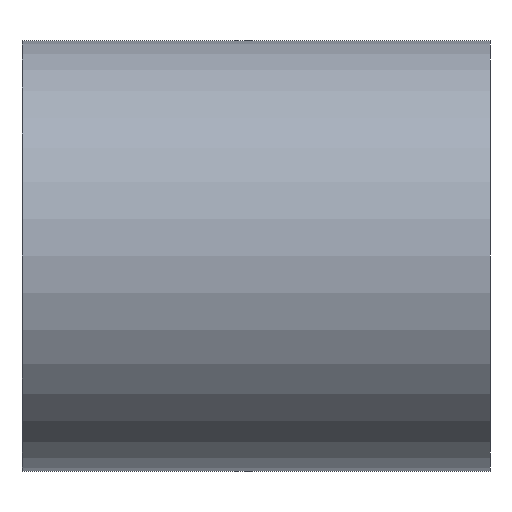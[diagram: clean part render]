
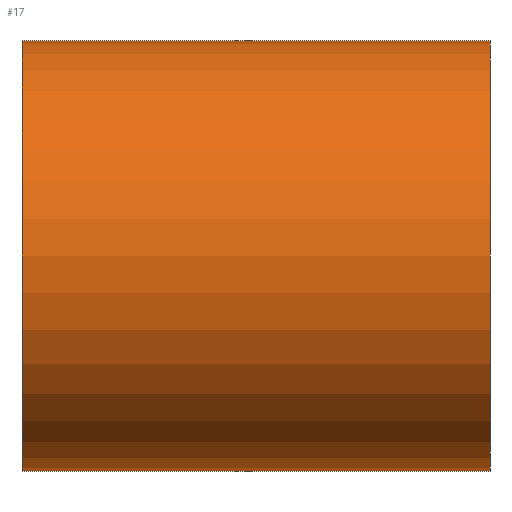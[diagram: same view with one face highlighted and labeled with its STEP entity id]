
A CAD part, left-side view. The second image highlights one B-rep face of the part: STEP entity #17.
In plain terms, the highlighted cylindrical face has radius 23 mm (diameter 46 mm), a full revolution.
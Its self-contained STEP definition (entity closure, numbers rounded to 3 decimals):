
#17 = ADVANCED_FACE('',(#18),#31,.T.);
#18 = FACE_BOUND('',#19,.T.);
#19 = EDGE_LOOP('',(#20,#54,#77,#104));
#20 = ORIENTED_EDGE('',*,*,#21,.F.);
#21 = EDGE_CURVE('',#22,#22,#24,.T.);
#22 = VERTEX_POINT('',#23);
#23 = CARTESIAN_POINT('',(0.,25.,23.));
#24 = SURFACE_CURVE('',#25,(#30,#42),.PCURVE_S1.);
#25 = CIRCLE('',#26,23.);
#26 = AXIS2_PLACEMENT_3D('',#27,#28,#29);
#27 = CARTESIAN_POINT('',(0.,25.,0.));
#28 = DIRECTION('',(0.,1.,0.));
#29 = DIRECTION('',(0.,-0.,1.));
#30 = PCURVE('',#31,#36);
#31 = CYLINDRICAL_SURFACE('',#32,23.);
#32 = AXIS2_PLACEMENT_3D('',#33,#34,#35);
#33 = CARTESIAN_POINT('',(0.,-25.,0.));
#34 = DIRECTION('',(0.,1.,0.));
#35 = DIRECTION('',(0.,-0.,1.));
#36 = DEFINITIONAL_REPRESENTATION('',(#37),#41);
#37 = LINE('',#38,#39);
#38 = CARTESIAN_POINT('',(0.,50.));
#39 = VECTOR('',#40,1.);
#40 = DIRECTION('',(1.,0.));
#41 = ( GEOMETRIC_REPRESENTATION_CONTEXT(2) 
PARAMETRIC_REPRESENTATION_CONTEXT() REPRESENTATION_CONTEXT('2D SPACE',''
  ) );
#42 = PCURVE('',#43,#48);
#43 = PLANE('',#44);
#44 = AXIS2_PLACEMENT_3D('',#45,#46,#47);
#45 = CARTESIAN_POINT('',(0.,25.,0.));
#46 = DIRECTION('',(0.,1.,0.));
#47 = DIRECTION('',(0.,-0.,1.));
#48 = DEFINITIONAL_REPRESENTATION('',(#49),#53);
#49 = CIRCLE('',#50,23.);
#50 = AXIS2_PLACEMENT_2D('',#51,#52);
#51 = CARTESIAN_POINT('',(0.,0.));
#52 = DIRECTION('',(1.,0.));
#53 = ( GEOMETRIC_REPRESENTATION_CONTEXT(2) 
PARAMETRIC_REPRESENTATION_CONTEXT() REPRESENTATION_CONTEXT('2D SPACE',''
  ) );
#54 = ORIENTED_EDGE('',*,*,#55,.F.);
#55 = EDGE_CURVE('',#56,#22,#58,.T.);
#56 = VERTEX_POINT('',#57);
#57 = CARTESIAN_POINT('',(0.,-25.,23.));
#58 = SEAM_CURVE('',#59,(#63,#70),.PCURVE_S1.);
#59 = LINE('',#60,#61);
#60 = CARTESIAN_POINT('',(0.,-25.,23.));
#61 = VECTOR('',#62,1.);
#62 = DIRECTION('',(0.,1.,0.));
#63 = PCURVE('',#31,#64);
#64 = DEFINITIONAL_REPRESENTATION('',(#65),#69);
#65 = LINE('',#66,#67);
#66 = CARTESIAN_POINT('',(6.283,-0.));
#67 = VECTOR('',#68,1.);
#68 = DIRECTION('',(0.,1.));
#69 = ( GEOMETRIC_REPRESENTATION_CONTEXT(2) 
PARAMETRIC_REPRESENTATION_CONTEXT() REPRESENTATION_CONTEXT('2D SPACE',''
  ) );
#70 = PCURVE('',#31,#71);
#71 = DEFINITIONAL_REPRESENTATION('',(#72),#76);
#72 = LINE('',#73,#74);
#73 = CARTESIAN_POINT('',(0.,-0.));
#74 = VECTOR('',#75,1.);
#75 = DIRECTION('',(0.,1.));
#76 = ( GEOMETRIC_REPRESENTATION_CONTEXT(2) 
PARAMETRIC_REPRESENTATION_CONTEXT() REPRESENTATION_CONTEXT('2D SPACE',''
  ) );
#77 = ORIENTED_EDGE('',*,*,#78,.T.);
#78 = EDGE_CURVE('',#56,#56,#79,.T.);
#79 = SURFACE_CURVE('',#80,(#85,#92),.PCURVE_S1.);
#80 = CIRCLE('',#81,23.);
#81 = AXIS2_PLACEMENT_3D('',#82,#83,#84);
#82 = CARTESIAN_POINT('',(0.,-25.,0.));
#83 = DIRECTION('',(0.,1.,0.));
#84 = DIRECTION('',(0.,-0.,1.));
#85 = PCURVE('',#31,#86);
#86 = DEFINITIONAL_REPRESENTATION('',(#87),#91);
#87 = LINE('',#88,#89);
#88 = CARTESIAN_POINT('',(0.,0.));
#89 = VECTOR('',#90,1.);
#90 = DIRECTION('',(1.,0.));
#91 = ( GEOMETRIC_REPRESENTATION_CONTEXT(2) 
PARAMETRIC_REPRESENTATION_CONTEXT() REPRESENTATION_CONTEXT('2D SPACE',''
  ) );
#92 = PCURVE('',#93,#98);
#93 = PLANE('',#94);
#94 = AXIS2_PLACEMENT_3D('',#95,#96,#97);
#95 = CARTESIAN_POINT('',(0.,-25.,0.));
#96 = DIRECTION('',(0.,1.,0.));
#97 = DIRECTION('',(0.,-0.,1.));
#98 = DEFINITIONAL_REPRESENTATION('',(#99),#103);
#99 = CIRCLE('',#100,23.);
#100 = AXIS2_PLACEMENT_2D('',#101,#102);
#101 = CARTESIAN_POINT('',(0.,0.));
#102 = DIRECTION('',(1.,0.));
#103 = ( GEOMETRIC_REPRESENTATION_CONTEXT(2) 
PARAMETRIC_REPRESENTATION_CONTEXT() REPRESENTATION_CONTEXT('2D SPACE',''
  ) );
#104 = ORIENTED_EDGE('',*,*,#55,.T.);
